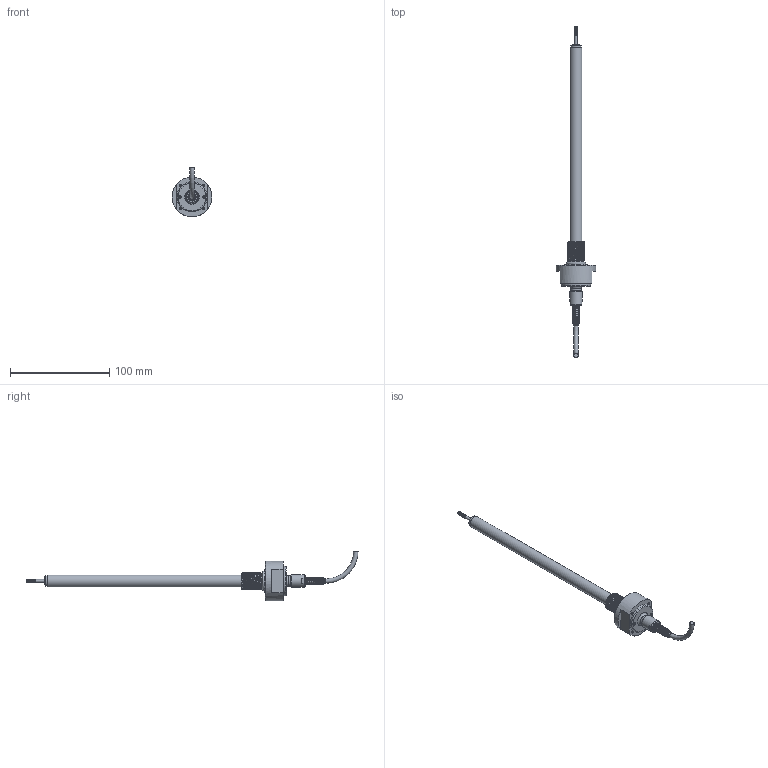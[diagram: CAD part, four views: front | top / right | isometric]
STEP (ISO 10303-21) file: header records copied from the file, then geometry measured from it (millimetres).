
FILE_DESCRIPTION( ( 'STEP AP214' ), '1' );
FILE_NAME( 'N:/Engineering/CAD_Solid/LVDT/HYD/Kunden-3D-Modell/SM100-HYD-18-K.stp', '2011-12-14T13:50:50', ( ' ' ), ( ' ' ), 'XStep 1.0', ' ', ' ' );
FILE_SCHEMA( ( 'CONFIG_CONTROL_DESIGN) ( )' ) );
Length unit declared in the file: metre
Products named in the file (12): 1; 2; 3; 4; 5; 6; 7; 8; 9; 10; 11; 12
Bounding box: 40 x 334.25 x 50 mm (x, y, z)
Volume: 1245.2 mm3; surface area: 20377.8 mm2
Topology: 2 solids, 74 shells, 78 faces, 285 edges, 236 vertices
Faces by surface type: plane 24, cylinder 22, cone 16, bspline 11, torus 5
Full cylindrical faces by diameter (mm): 2.5 x5, 2.6 x2, 3 x1, 4 x1, 4.5 x1, 6 x1, 8 x1, 10.6 x1, 11 x1, 12 x1, 13 x1, 15.8 x1, 24 x1, 30 x1, 40 x1
Entity records: 17548 total; most frequent: CARTESIAN_POINT 14842, DIRECTION 446, ORIENTED_EDGE 212, AXIS2_PLACEMENT_3D 209, EDGE_CURVE 209, VERTEX_POINT 209, CIRCLE 131, EDGE_LOOP 130
